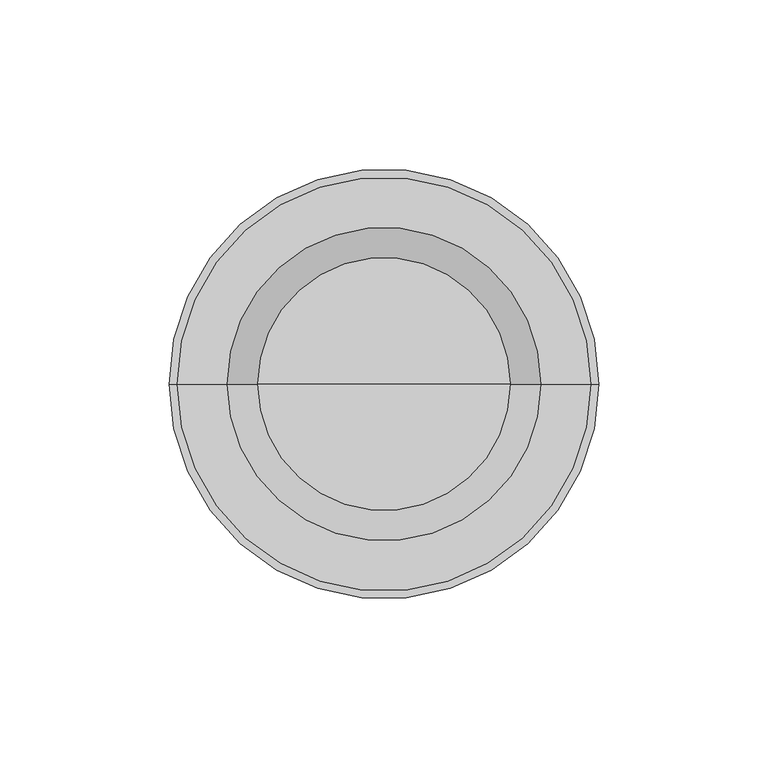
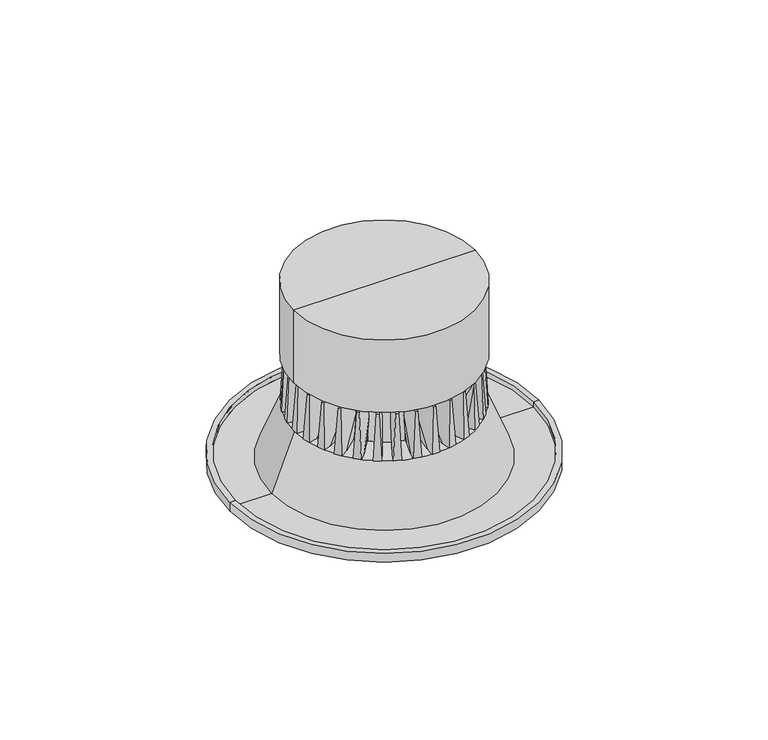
"""IFC4 building model written with IfcOpenShell, lengths in millimetres: light fixture geometry, LREBLD402_ceiling based : LREBLD402W-T30."""

import ifcopenshell
import ifcopenshell.guid

model = None  # the IFC model being written
_history = None  # IfcOwnerHistory: only IFC2X3 demands one
_inside = {}  # id of a spatial element -> (the spatial element, [elements in it])
_under = {}  # id of a project, library or spatial element -> (it, [spatial elements below it])
_declared = {}  # id of a project -> (the project, [libraries it declares])
_typed = {}  # id of a type object -> (the type object, [elements of that type])
_made_of = {}  # id of a material, layer set ... -> (it, [elements and type objects made of it])


def new_model(schema):
    """Start an empty IFC model of exactly this schema.

    Asked for "IFC4X3", IfcOpenShell would pick the latest addendum, in which some entities
    have other attributes; the version numbers below select the first issue.
    IFC2X3 requires an IfcOwnerHistory on every rooted entity: one is made here for all.
    """
    global model, _history
    if schema == "IFC4X3":
        model = ifcopenshell.file(schema_version=(4, 3, 0, 0))
    else:
        model = ifcopenshell.file(schema=schema)
    _inside.clear()
    _under.clear()
    _declared.clear()
    _typed.clear()
    _made_of.clear()
    _history = None
    if model.schema == "IFC2X3":
        org = make("IfcOrganization", Name="unknown")
        user = make(
            "IfcPersonAndOrganization",
            ThePerson=make("IfcPerson", FamilyName="unknown"),
            TheOrganization=org,
        )
        app = make(
            "IfcApplication",
            ApplicationDeveloper=org,
            Version="unknown",
            ApplicationFullName="unknown",
            ApplicationIdentifier="unknown",
        )
        _history = make(
            "IfcOwnerHistory",
            OwningUser=user,
            OwningApplication=app,
            ChangeAction="ADDED",
            CreationDate=0,
        )
    return model


def make(cls, **values):
    """One entity of the class cls with the attributes given. An attribute that is None is left unset."""
    return model.create_entity(
        cls, **{name: value for name, value in values.items() if value is not None}
    )


def rooted(cls, **values):
    """An entity with a GlobalId (a new one), such as an element, a storey or a relation."""
    return make(cls, GlobalId=ifcopenshell.guid.new(), OwnerHistory=_history, **values)


def si_unit(unit_type, name, prefix=None):
    """IfcSIUnit, for example si_unit("LENGTHUNIT", "METRE", prefix="MILLI")."""
    return make("IfcSIUnit", UnitType=unit_type, Prefix=prefix, Name=name)


def assignment(units):
    """IfcUnitAssignment: the units of a project."""
    return None if units is None else make("IfcUnitAssignment", Units=units)


def point(xyz):
    """IfcCartesianPoint."""
    return None if xyz is None else make("IfcCartesianPoint", Coordinates=xyz)


def direction(xyz):
    """IfcDirection."""
    return None if xyz is None else make("IfcDirection", DirectionRatios=xyz)


def frame(location, z_axis=None, x_axis=None):
    """IfcAxis2Placement3D, a coordinate frame: its origin and axes. An axis left out is left unset."""
    return make(
        "IfcAxis2Placement3D",
        Location=point(location),
        Axis=direction(z_axis),
        RefDirection=direction(x_axis),
    )


def origin():
    """The frame at (0, 0, 0) with its axes left unset."""
    return frame((0.0, 0.0, 0.0))


def place(relative_to, where):
    """IfcLocalPlacement: puts the frame where relative to a parent placement (None: the world)."""
    return make(
        "IfcLocalPlacement", PlacementRelTo=relative_to, RelativePlacement=where
    )


def context(
    kind, dimensions, precision=None, world=None, true_north=None, identifier=None
):
    """IfcGeometricRepresentationContext, for example the 3D "Model" context."""
    return make(
        "IfcGeometricRepresentationContext",
        ContextIdentifier=identifier,
        ContextType=kind,
        CoordinateSpaceDimension=dimensions,
        Precision=precision,
        WorldCoordinateSystem=world,
        TrueNorth=true_north,
    )


def project(units=None, contexts=None):
    """IfcProject with its units and contexts."""
    return rooted(
        "IfcProject",
        Name="project",
        RepresentationContexts=contexts,
        UnitsInContext=assignment(units),
    )


def spatial(cls, under=None, at=None, **own):
    """A site, building, storey or space (cls), placed at a placement, below another one or the project."""
    s = rooted(cls, ObjectPlacement=at, **own)
    if under is not None:
        _under.setdefault(under.id(), (under, []))[1].append(s)
    return s


def polyline(points):
    """IfcPolyline through the points."""
    return make("IfcPolyline", Points=[point(p) for p in points])


def circle_curve(where, radius):
    """IfcCircle in the frame where."""
    return make("IfcCircle", Position=where, Radius=radius)


def faces_of(points, faces, orient=None, outer=None):
    """IfcFace entities. A face is a list of loops; a loop is a list of indices into points, from 0.

    orient and outer hold one flag for each loop. By default every Orientation is true, the
    first loop of a face is its IfcFaceOuterBound and the others are IfcFaceBound.
    """
    made = []
    for i, loops in enumerate(faces):
        bounds = []
        for j, loop in enumerate(loops):
            is_outer = j == 0 if outer is None else outer[i][j]
            bounds.append(
                make(
                    "IfcFaceOuterBound" if is_outer else "IfcFaceBound",
                    Bound=make("IfcPolyLoop", Polygon=[points[k] for k in loop]),
                    Orientation=True if orient is None else orient[i][j],
                )
            )
        made.append(make("IfcFace", Bounds=bounds))
    return made


def faceted_brep(points, faces, orient=None, outer=None, voids=None):
    """IfcFacetedBrep: a solid bounded by flat faces; with voids (closed shells), ...WithVoids."""
    shared = [point(p) for p in points]
    hull = make("IfcClosedShell", CfsFaces=faces_of(shared, faces, orient, outer))
    if voids is None:
        return make("IfcFacetedBrep", Outer=hull)
    return make(
        "IfcFacetedBrepWithVoids",
        Outer=hull,
        Voids=[
            make(cls, CfsFaces=faces_of(shared, fs, o, b)) for cls, fs, o, b in voids
        ],
    )


def shape(context_of_items, identifier, shape_type, items):
    """IfcShapeRepresentation: the items that make up one representation, for example the "Body"."""
    return make(
        "IfcShapeRepresentation",
        ContextOfItems=context_of_items,
        RepresentationIdentifier=identifier,
        RepresentationType=shape_type,
        Items=items,
    )


def source(mapping_origin, context_of_items, identifier, shape_type, items):
    """IfcRepresentationMap: a shape defined once, which mapped items show again and again."""
    return make(
        "IfcRepresentationMap",
        MappingOrigin=mapping_origin,
        MappedRepresentation=shape(context_of_items, identifier, shape_type, items),
    )


def transform(
    local_origin,
    x_axis=None,
    y_axis=None,
    z_axis=None,
    scale=None,
    scale2=None,
    scale3=None,
    uniform=True,
):
    """IfcCartesianTransformationOperator3D, or its non-uniform kind. x_axis, y_axis, z_axis: its Axis1, 2, 3."""
    if uniform:
        return make(
            "IfcCartesianTransformationOperator3D",
            Axis1=direction(x_axis),
            Axis2=direction(y_axis),
            LocalOrigin=point(local_origin),
            Scale=scale,
            Axis3=direction(z_axis),
        )
    return make(
        "IfcCartesianTransformationOperator3DnonUniform",
        Axis1=direction(x_axis),
        Axis2=direction(y_axis),
        LocalOrigin=point(local_origin),
        Scale=scale,
        Axis3=direction(z_axis),
        Scale2=scale2,
        Scale3=scale3,
    )


def mapped(mapping_source, mapping_target):
    """IfcMappedItem: shows the shape of a source again, moved by a transform."""
    return make(
        "IfcMappedItem", MappingSource=mapping_source, MappingTarget=mapping_target
    )


def made_of(thing, what):
    """Note that an element or type object is made of a material, layer set ...; save() writes the relation."""
    if what is not None:
        _made_of.setdefault(what.id(), (what, []))[1].append(thing)
    return thing


def element(
    cls,
    number,
    at=None,
    inside=None,
    cuts=None,
    type_object=None,
    material=None,
    context=None,
    identifier="Body",
    shape_type=None,
    held_by="IfcProductDefinitionShape",
    body=None,
    shapes=None,
    **own,
):
    """One element of the class cls, such as IfcWall. Its Tag is "e" and its number.

    at: its placement. inside: the storey or other place that contains it. cuts: it is an
    opening in that element (IfcRelVoidsElement). A single representation is given by context,
    identifier, shape_type and body (its items); several are given by shapes. held_by: the class
    of the entity that holds the representations. save() writes the other relations.
    """
    e = rooted(cls, Tag="e%d" % number, ObjectPlacement=at, **own)
    if body is not None:
        shapes = [shape(context, identifier, shape_type, body)]
    if shapes is not None:
        e.Representation = make(held_by, Representations=shapes)
    if inside is not None:
        _inside.setdefault(inside.id(), (inside, []))[1].append(e)
    if cuts is not None:
        rooted(
            "IfcRelVoidsElement", RelatingBuildingElement=cuts, RelatedOpeningElement=e
        )
    if type_object is not None:
        _typed.setdefault(type_object.id(), (type_object, []))[1].append(e)
    return made_of(e, material)


def aggregate(whole, parts):
    """IfcRelAggregates: a whole, such as a stair, and the parts it consists of."""
    return rooted("IfcRelAggregates", RelatingObject=whole, RelatedObjects=parts)


def save(model, path):
    """Write the relations noted so far, then the file.

    IfcRelAggregates (storeys below a building ...), IfcRelContainedInSpatialStructure (elements
    in a storey), IfcRelDefinesByType, IfcRelAssociatesMaterial and IfcRelDeclares: one each for
    every whole, place, type object, material and project.
    """
    for whole, parts in _under.values():
        aggregate(whole, parts)
    for where, things in _inside.values():
        rooted(
            "IfcRelContainedInSpatialStructure",
            RelatedElements=things,
            RelatingStructure=where,
        )
    for kind, things in _typed.values():
        rooted("IfcRelDefinesByType", RelatedObjects=things, RelatingType=kind)
    for what, things in _made_of.values():
        rooted("IfcRelAssociatesMaterial", RelatedObjects=things, RelatingMaterial=what)
    for by, libraries in _declared.values():
        rooted("IfcRelDeclares", RelatingContext=by, RelatedDefinitions=libraries)
    model.write(path)


def plane_surface(at):
    """IfcPlane: the flat surface through the origin of the frame at, square to its z axis."""
    return make("IfcPlane", Position=at)


def cylinder_surface(at, radius):
    """IfcCylindricalSurface: all points at the distance radius from the z axis of the frame at."""
    return make("IfcCylindricalSurface", Position=at, Radius=radius)


def revolved_surface(curve, axis_point, axis_direction):
    """IfcSurfaceOfRevolution: the curve turned about the line through axis_point along axis_direction."""
    return make(
        "IfcSurfaceOfRevolution",
        SweptCurve=make("IfcArbitraryOpenProfileDef", ProfileType="CURVE", Curve=curve),
        AxisPosition=make("IfcAxis1Placement", Location=point(axis_point), Axis=direction(axis_direction)),
    )


def advanced_brep(points, edges, surfaces, faces):
    """IfcAdvancedBrep: a solid bounded by faces that lie on surfaces and meet in shared edges.

    An edge is (start, end): straight between two places in points (the first is 0);
    or (start, end, curve); or (start, end, curve, False) where it runs against its curve.
    A face is (place in surfaces, loops), or (place, loops, False) where it looks against
    its surface's normal. A loop lists edges by number (the first is 1), with a minus sign
    where the edge is run from its end to its start. The first loop is the outer one.
    """
    corners = [point(p) for p in points]
    vertices = [make("IfcVertexPoint", VertexGeometry=c) for c in corners]
    made = []
    for start, end, *more in edges:
        made.append(
            make(
                "IfcEdgeCurve",
                EdgeStart=vertices[start],
                EdgeEnd=vertices[end],
                EdgeGeometry=more[0] if more else make("IfcPolyline", Points=[corners[start], corners[end]]),
                SameSense=more[1] if len(more) > 1 else True,
            )
        )
    hull = []
    for where, loops, *sense in faces:
        bounds = []
        for j, loop in enumerate(loops):
            ring = [make("IfcOrientedEdge", EdgeElement=made[abs(k) - 1], Orientation=k > 0) for k in loop]
            bounds.append(
                make(
                    "IfcFaceOuterBound" if j == 0 else "IfcFaceBound",
                    Bound=make("IfcEdgeLoop", EdgeList=ring),
                    Orientation=True,
                )
            )
        hull.append(make("IfcAdvancedFace", Bounds=bounds, FaceSurface=surfaces[where], SameSense=sense[0] if sense else True))
    return make("IfcAdvancedBrep", Outer=make("IfcClosedShell", CfsFaces=hull))


def light_fixture_063f11ae(model_context):
    return source(origin(), model_context, "Body", "SolidModel", [
        faceted_brep([(32.8508638, 4.9927163, 21.5533331), (25.8328552, 4.5211107, 21.5533331), (16.1957141, 2.6041641, 21.5533331), (15.9594592, 3.7918975, 21.5533331), (25.5966003, 5.7088441, 21.5533331), (32.2608705, 7.958813, 21.5533331), (35.924714, 8.6875967, 21.5533331), (36.5147073, 5.7215, 21.5533331), (16.2616536, 2.7028496, 41.1607), (35.3164223, 6.4930787, 41.1607), (35.1129134, 7.5161872, 41.1607), (16.0581447, 3.725958, 41.1607)], [[[0, 1, 2, 3, 4, 5, 6, 7]], [[8, 9, 10, 11]], [[1, 0, 8]], [[2, 1, 8]], [[8, 11, 3, 2]], [[4, 3, 11]], [[5, 4, 11]], [[11, 10, 6, 5]], [[10, 9, 7, 6]], [[9, 8, 0, 7]]]),
        faceted_brep([(31.2456131, 11.3056682, 21.5533331), (24.4544592, 9.4739788, 21.5533331), (15.3764707, 5.7137529, 21.5533331), (14.9130401, 6.8325733, 21.5533331), (23.9910286, 10.5927993, 21.5533331), (30.0882995, 14.0996702, 21.5533331), (33.5395646, 15.529231, 21.5533331), (34.6968782, 12.735229, 21.5533331), (15.4218907, 5.8234063, 41.1607), (33.3710903, 13.2582083, 41.1607), (32.9718932, 14.2219553, 41.1607), (15.0226936, 6.7871534, 41.1607)], [[[0, 1, 2, 3, 4, 5, 6, 7]], [[8, 9, 10, 11]], [[1, 0, 8]], [[2, 1, 8]], [[8, 11, 3, 2]], [[4, 3, 11]], [[5, 4, 11]], [[11, 10, 6, 5]], [[10, 9, 7, 6]], [[9, 8, 0, 7]]]),
        faceted_brep([(28.4396109, 17.1841497, 21.5533331), (22.1362921, 14.0627673, 21.5533331), (13.9663183, 8.6037653, 21.5533331), (13.2935213, 9.6106771, 21.5533331), (21.4634951, 15.0696791, 21.5533331), (26.7594521, 19.6986851, 21.5533331), (29.8655086, 21.7740857, 21.5533331), (31.5456674, 19.2595503, 21.5533331), (13.9894732, 8.7201728, 41.1607), (30.1433261, 19.5138323, 41.1607), (29.5637817, 20.3811817, 41.1607), (13.4099288, 9.5875223, 41.1607)], [[[0, 1, 2, 3, 4, 5, 6, 7]], [[8, 9, 10, 11]], [[1, 0, 8]], [[2, 1, 8]], [[8, 11, 3, 2]], [[4, 3, 11]], [[5, 4, 11]], [[11, 10, 6, 5]], [[10, 9, 7, 6]], [[9, 8, 0, 7]]]),
        faceted_brep([(24.5406905, 22.4022539, 21.5533331), (18.9674396, 18.1111315, 21.5533331), (12.019448, 11.1631399, 21.5533331), (11.1631399, 12.019448, 21.5533331), (18.1111315, 18.9674396, 21.5533331), (22.4022539, 24.5406905, 21.5533331), (25.0437379, 27.1821744, 21.5533331), (27.1821744, 25.0437379, 21.5533331), (12.019448, 11.281828, 41.1607), (25.7571707, 25.0195506, 41.1607), (25.0195506, 25.7571707, 41.1607), (11.281828, 12.019448, 41.1607)], [[[0, 1, 2, 3, 4, 5, 6, 7]], [[8, 9, 10, 11]], [[1, 0, 8]], [[2, 1, 8]], [[8, 11, 3, 2]], [[5, 4, 10]], [[10, 9, 7, 6]], [[9, 8, 0, 7]], [[11, 10, 4, 3]], [[6, 5, 10]]]),
        faceted_brep([(19.6986851, 26.7594521, 21.5533331), (15.0696791, 21.4634951, 21.5533331), (9.6106771, 13.2935213, 21.5533331), (8.6037653, 13.9663183, 21.5533331), (14.0627673, 22.1362921, 21.5533331), (17.1841497, 28.4396109, 21.5533331), (19.2595503, 31.5456674, 21.5533331), (21.7740857, 29.8655086, 21.5533331), (9.5875223, 13.4099288, 41.1607), (20.3811817, 29.5637817, 41.1607), (19.5138323, 30.1433261, 41.1607), (8.7201728, 13.9894732, 41.1607)], [[[0, 1, 2, 3, 4, 5, 6, 7]], [[8, 9, 10, 11]], [[1, 0, 8]], [[2, 1, 8]], [[8, 11, 3, 2]], [[4, 3, 11]], [[5, 4, 11]], [[11, 10, 6, 5]], [[10, 9, 7, 6]], [[9, 8, 0, 7]]]),
        faceted_brep([(14.0996702, 30.0882995, 21.5533331), (10.5927993, 23.9910286, 21.5533331), (6.8325733, 14.9130401, 21.5533331), (5.7137529, 15.3764707, 21.5533331), (9.4739788, 24.4544592, 21.5533331), (11.3056682, 31.2456131, 21.5533331), (12.735229, 34.6968782, 21.5533331), (15.529231, 33.5395646, 21.5533331), (6.7871534, 15.0226936, 41.1607), (14.2219553, 32.9718932, 41.1607), (13.2582083, 33.3710903, 41.1607), (5.8234063, 15.4218907, 41.1607)], [[[0, 1, 2, 3, 4, 5, 6, 7]], [[8, 9, 10, 11]], [[1, 0, 8]], [[2, 1, 8]], [[8, 11, 3, 2]], [[4, 3, 11]], [[5, 4, 11]], [[11, 10, 6, 5]], [[10, 9, 7, 6]], [[9, 8, 0, 7]]]),
        faceted_brep([(7.9106893, 32.2727046, 21.5533331), (5.6706622, 25.6050862, 21.5533331), (3.7680909, 15.9650968, 21.5533331), (2.5800064, 16.19958, 21.5533331), (4.4825778, 25.8395694, 21.5533331), (4.943716, 32.8582736, 21.5533331), (5.6670346, 36.5231999, 21.5533331), (8.6340079, 35.937631, 21.5533331), (3.7020043, 16.0636838, 41.1607), (7.4638104, 35.1240842, 41.1607), (6.4403996, 35.326067, 41.1607), (2.6785935, 16.2656666, 41.1607)], [[[0, 1, 2, 3, 4, 5, 6, 7]], [[8, 9, 10, 11]], [[1, 0, 8]], [[2, 1, 8]], [[8, 11, 3, 2]], [[4, 3, 11]], [[5, 4, 11]], [[11, 10, 6, 5]], [[10, 9, 7, 6]], [[9, 8, 0, 7]]]),
        faceted_brep([(1.4680963, 33.1956498, 21.5533331), (0.5707425, 26.2192888, 21.5533331), (0.5837689, 16.3933535, 21.5533331), (-0.6272326, 16.391748, 21.5533331), (-0.640259, 26.2176833, 21.5533331), (-1.556107, 33.1916405, 21.5533331), (-1.5610594, 36.9272597, 21.5533331), (1.4631439, 36.9312689, 21.5533331), (0.4997326, 16.4771673, 41.1607), (0.4739765, 35.9052239, 41.1607), (-0.5691749, 35.903841, 41.1607), (-0.5434188, 16.4757843, 41.1607)], [[[0, 1, 2, 3, 4, 5, 6, 7]], [[8, 9, 10, 11]], [[1, 0, 8]], [[2, 1, 8]], [[8, 11, 3, 2]], [[4, 3, 11]], [[5, 4, 11]], [[11, 10, 6, 5]], [[10, 9, 7, 6]], [[9, 8, 0, 7]]]),
        faceted_brep([(-5.0308199, 32.8450502, 21.5533331), (-4.5510737, 25.8275933, 21.5533331), (-2.6229494, 16.1926823, 21.5533331), (-3.810408, 15.9550498, 21.5533331), (-5.7385323, 25.5899609, 21.5533331), (-7.9962302, 32.2516166, 21.5533331), (-8.7292636, 35.9146122, 21.5533331), (-5.7638533, 36.5080458, 21.5533331), (-2.7217113, 16.2585073, 41.1607), (-6.5340415, 35.3088666, 41.1607), (-7.5569131, 35.104171, 41.1607), (-3.7445829, 16.0538118, 41.1607)], [[[0, 1, 2, 3, 4, 5, 6, 7]], [[8, 9, 10, 11]], [[1, 0, 8]], [[2, 1, 8]], [[8, 11, 3, 2]], [[4, 3, 11]], [[5, 4, 11]], [[11, 10, 6, 5]], [[10, 9, 7, 6]], [[9, 8, 0, 7]]]),
        faceted_brep([(-11.3367297, 31.2343565, 21.5533331), (-9.4982889, 24.4450273, 21.5533331), (-5.7290387, 15.370782, 21.5533331), (-6.8473978, 14.9062392, 21.5533331), (-10.616648, 23.9804845, 21.5533331), (-14.1295796, 30.0742656, 21.5533331), (-15.5625713, 33.5241076, 21.5533331), (-12.7697214, 34.6841986, 21.5533331), (-5.8387372, 15.4160929, 41.1607), (-13.2913821, 33.3578914, 41.1607), (-14.2547318, 32.9577363, 41.1607), (-6.8020869, 15.0159378, 41.1607)], [[[0, 1, 2, 3, 4, 5, 6, 7]], [[8, 9, 10, 11]], [[1, 0, 8]], [[2, 1, 8]], [[8, 11, 3, 2]], [[4, 3, 11]], [[5, 4, 11]], [[11, 10, 6, 5]], [[10, 9, 7, 6]], [[9, 8, 0, 7]]]),
        faceted_brep([(-17.2077081, 28.4253628, 21.5533331), (-14.081104, 22.1246324, 21.5533331), (-8.6153345, 13.9591846, 21.5533331), (-9.6216885, 13.2855536, 21.5533331), (-15.087458, 21.4510014, 21.5533331), (-19.7208504, 26.7431211, 21.5533331), (-21.7988239, 29.847457, 21.5533331), (-19.2856816, 31.5296987, 21.5533331), (-8.7317611, 13.9822431, 41.1607), (-19.5388015, 30.1271471, 41.1607), (-20.4056704, 29.5468843, 41.1607), (-9.5986301, 13.4019803, 41.1607)], [[[0, 1, 2, 3, 4, 5, 6, 7]], [[8, 9, 10, 11]], [[1, 0, 8]], [[2, 1, 8]], [[8, 11, 3, 2]], [[5, 4, 10]], [[10, 9, 7, 6]], [[9, 8, 0, 7]], [[11, 10, 4, 3]], [[6, 5, 10]]]),
        faceted_brep([(-22.418516, 24.5258356, 21.5533331), (-18.1237003, 18.9554303, 21.5533331), (-11.1711047, 12.0120458, 21.5533331), (-12.026845, 11.1551703, 21.5533331), (-18.9794405, 18.0985548, 21.5533331), (-24.5555346, 22.385982, 21.5533331), (-27.1987689, 25.0257145, 21.5533331), (-25.0617503, 27.165568, 21.5533331), (-11.2897927, 12.0119671, 41.1607), (-25.0366185, 25.7405806, 41.1607), (-25.7737494, 25.0024718, 41.1607), (-12.0269236, 11.2738583, 41.1607)], [[[0, 1, 2, 3, 4, 5, 6, 7]], [[8, 9, 10, 11]], [[1, 0, 8]], [[2, 1, 8]], [[8, 11, 3, 2]], [[5, 4, 10]], [[10, 9, 7, 6]], [[9, 8, 0, 7]], [[6, 5, 10]], [[11, 10, 4, 3]]]),
        faceted_brep([(-13.3124576, 9.5844299, 21.5533331), (-13.9832666, 8.5761926, 21.5533331), (-22.1639952, 14.0190644, 21.5533331), (-28.4734604, 17.128004, 21.5533331), (-31.5836057, 19.1972723, 21.5533331), (-29.9084114, 21.7151177, 21.5533331), (-26.7982661, 19.6458495, 21.5533331), (-21.4931863, 15.0273016, 21.5533331), (-13.4288192, 9.5610454, 41.1607), (-29.6039369, 20.3228118, 41.1607), (-30.1817688, 19.4543206, 41.1607), (-14.0066511, 8.6925542, 41.1607)], [[[0, 1, 2, 3, 4, 5, 6, 7]], [[8, 9, 10, 11]], [[7, 6, 9]], [[8, 11, 1, 0]], [[3, 2, 10]], [[10, 9, 5, 4]], [[9, 8, 0, 7]], [[6, 5, 9]], [[4, 3, 10]], [[11, 10, 2, 1]]]),
        faceted_brep([(-30.1068196, 14.0600813, 21.5533331), (-24.0049411, 10.5612334, 21.5533331), (-14.9220145, 6.8129515, 21.5533331), (-15.383973, 5.6935224, 21.5533331), (-24.4668997, 9.4418044, 21.5533331), (-31.260457, 11.2645594, 21.5533331), (-34.7135995, 12.6895793, 21.5533331), (-33.5599621, 15.4851012, 21.5533331), (-15.0316081, 6.7673873, 41.1607), (-32.9905716, 14.1785733, 41.1607), (-33.3885007, 13.214302, 41.1607), (-15.4295372, 5.803116, 41.1607)], [[[0, 1, 2, 3, 4, 5, 6, 7]], [[8, 9, 10, 11]], [[1, 0, 8]], [[2, 1, 8]], [[8, 11, 3, 2]], [[4, 3, 11]], [[5, 4, 11]], [[11, 10, 6, 5]], [[10, 9, 7, 6]], [[9, 8, 0, 7]]]),
        faceted_brep([(-32.2546436, 7.9840111, 21.5533331), (-25.5921331, 5.7288371, 21.5533331), (-15.9564923, 3.8043631, 21.5533331), (-16.1936749, 2.6168146, 21.5533331), (-25.8293157, 4.5412886, 21.5533331), (-32.8469537, 5.0183762, 21.5533331), (-36.5102268, 5.7500217, 21.5533331), (-35.9179167, 8.7156566, 21.5533331), (-16.0552293, 3.7385007, 41.1607), (-35.1070314, 7.5436133, 41.1607), (-35.3113395, 6.5206642, 41.1607), (-16.2595373, 2.7155515, 41.1607)], [[[0, 1, 2, 3, 4, 5, 6, 7]], [[8, 9, 10, 11]], [[1, 0, 8]], [[2, 1, 8]], [[8, 11, 3, 2]], [[4, 3, 11]], [[5, 4, 11]], [[11, 10, 6, 5]], [[10, 9, 7, 6]], [[9, 8, 0, 7]]]),
        faceted_brep([(16.3925652, 0.6055013, 21.5533331), (26.2185091, 0.6055013, 21.5533331), (33.1936743, 1.512103, 21.5533331), (36.9292967, 1.512103, 21.5533331), (36.9292967, -1.512103, 21.5533331), (33.1936743, -1.512103, 21.5533331), (26.2185091, -0.6055013, 21.5533331), (16.3925652, -0.6055013, 21.5533331), (16.4764903, 0.5215761, 41.1607), (16.4764903, -0.5215761, 41.1607), (35.904564, -0.5215761, 41.1607), (35.904564, 0.5215761, 41.1607)], [[[0, 1, 2, 3, 4, 5, 6, 7]], [[8, 9, 10, 11]], [[2, 1, 8]], [[1, 0, 8]], [[9, 8, 0, 7]], [[7, 6, 9]], [[6, 5, 9]], [[10, 9, 5, 4]], [[11, 10, 4, 3]], [[8, 11, 3, 2]]]),
        faceted_brep([(16.1957141, -2.6041641, 21.5533331), (25.8328552, -4.5211107, 21.5533331), (32.8508638, -4.9927163, 21.5533331), (36.5147073, -5.7215, 21.5533331), (35.924714, -8.6875967, 21.5533331), (32.2608705, -7.958813, 21.5533331), (25.5966003, -5.7088441, 21.5533331), (15.9594592, -3.7918975, 21.5533331), (16.2616536, -2.7028496, 41.1607), (16.0581447, -3.725958, 41.1607), (35.1129134, -7.5161872, 41.1607), (35.3164223, -6.4930787, 41.1607)], [[[0, 1, 2, 3, 4, 5, 6, 7]], [[8, 9, 10, 11]], [[2, 1, 8]], [[1, 0, 8]], [[9, 8, 0, 7]], [[7, 6, 9]], [[6, 5, 9]], [[10, 9, 5, 4]], [[11, 10, 4, 3]], [[8, 11, 3, 2]]]),
        faceted_brep([(15.3764707, -5.7137529, 21.5533331), (24.4544592, -9.4739788, 21.5533331), (31.2456131, -11.3056682, 21.5533331), (34.6968782, -12.735229, 21.5533331), (33.5395646, -15.529231, 21.5533331), (30.0882995, -14.0996702, 21.5533331), (23.9910286, -10.5927993, 21.5533331), (14.9130401, -6.8325733, 21.5533331), (15.4218907, -5.8234063, 41.1607), (15.0226936, -6.7871534, 41.1607), (32.9718932, -14.2219553, 41.1607), (33.3710903, -13.2582083, 41.1607)], [[[0, 1, 2, 3, 4, 5, 6, 7]], [[8, 9, 10, 11]], [[2, 1, 8]], [[1, 0, 8]], [[9, 8, 0, 7]], [[7, 6, 9]], [[6, 5, 9]], [[10, 9, 5, 4]], [[11, 10, 4, 3]], [[8, 11, 3, 2]]]),
        faceted_brep([(13.9663183, -8.6037653, 21.5533331), (22.1362921, -14.0627673, 21.5533331), (28.4396109, -17.1841497, 21.5533331), (31.5456674, -19.2595503, 21.5533331), (29.8655086, -21.7740857, 21.5533331), (26.7594521, -19.6986851, 21.5533331), (21.4634951, -15.0696791, 21.5533331), (13.2935213, -9.6106771, 21.5533331), (13.9894732, -8.7201728, 41.1607), (13.4099288, -9.5875223, 41.1607), (29.5637817, -20.3811817, 41.1607), (30.1433261, -19.5138323, 41.1607)], [[[0, 1, 2, 3, 4, 5, 6, 7]], [[8, 9, 10, 11]], [[2, 1, 8]], [[1, 0, 8]], [[9, 8, 0, 7]], [[7, 6, 9]], [[6, 5, 9]], [[10, 9, 5, 4]], [[11, 10, 4, 3]], [[8, 11, 3, 2]]]),
        faceted_brep([(12.019448, -11.1631399, 21.5533331), (18.9674396, -18.1111315, 21.5533331), (24.5406905, -22.4022539, 21.5533331), (27.1821744, -25.0437379, 21.5533331), (25.0437379, -27.1821744, 21.5533331), (22.4022539, -24.5406905, 21.5533331), (18.1111315, -18.9674396, 21.5533331), (11.1631399, -12.019448, 21.5533331), (12.019448, -11.281828, 41.1607), (11.281828, -12.019448, 41.1607), (25.0195506, -25.7571707, 41.1607), (25.7571707, -25.0195506, 41.1607)], [[[0, 1, 2, 3, 4, 5, 6, 7]], [[8, 9, 10, 11]], [[2, 1, 8]], [[1, 0, 8]], [[9, 8, 0, 7]], [[7, 6, 9]], [[6, 5, 9]], [[10, 9, 5, 4]], [[11, 10, 4, 3]], [[8, 11, 3, 2]]]),
        faceted_brep([(9.6106771, -13.2935213, 21.5533331), (15.0696791, -21.4634951, 21.5533331), (19.6986851, -26.7594521, 21.5533331), (21.7740857, -29.8655086, 21.5533331), (19.2595503, -31.5456674, 21.5533331), (17.1841497, -28.4396109, 21.5533331), (14.0627673, -22.1362921, 21.5533331), (8.6037653, -13.9663183, 21.5533331), (9.5875223, -13.4099288, 41.1607), (8.7201728, -13.9894732, 41.1607), (19.5138323, -30.1433261, 41.1607), (20.3811817, -29.5637817, 41.1607)], [[[0, 1, 2, 3, 4, 5, 6, 7]], [[8, 9, 10, 11]], [[2, 1, 11]], [[9, 8, 0, 7]], [[6, 5, 10]], [[11, 10, 4, 3]], [[8, 11, 1, 0]], [[3, 2, 11]], [[5, 4, 10]], [[10, 9, 7, 6]]]),
        faceted_brep([(6.8325733, -14.9130401, 21.5533331), (10.5927993, -23.9910286, 21.5533331), (14.0996702, -30.0882995, 21.5533331), (15.529231, -33.5395646, 21.5533331), (12.735229, -34.6968782, 21.5533331), (11.3056682, -31.2456131, 21.5533331), (9.4739788, -24.4544592, 21.5533331), (5.7137529, -15.3764707, 21.5533331), (6.7871534, -15.0226936, 41.1607), (5.8234063, -15.4218907, 41.1607), (13.2582083, -33.3710903, 41.1607), (14.2219553, -32.9718932, 41.1607)], [[[0, 1, 2, 3, 4, 5, 6, 7]], [[8, 9, 10, 11]], [[2, 1, 8]], [[1, 0, 8]], [[9, 8, 0, 7]], [[7, 6, 9]], [[6, 5, 9]], [[10, 9, 5, 4]], [[11, 10, 4, 3]], [[8, 11, 3, 2]]]),
        faceted_brep([(3.7680909, -15.9650968, 21.5533331), (5.6706622, -25.6050862, 21.5533331), (7.9106893, -32.2727046, 21.5533331), (8.6340079, -35.937631, 21.5533331), (5.6670346, -36.5231999, 21.5533331), (4.943716, -32.8582736, 21.5533331), (4.4825778, -25.8395694, 21.5533331), (2.5800064, -16.19958, 21.5533331), (3.7020043, -16.0636838, 41.1607), (2.6785935, -16.2656666, 41.1607), (6.4403996, -35.326067, 41.1607), (7.4638104, -35.1240842, 41.1607)], [[[0, 1, 2, 3, 4, 5, 6, 7]], [[8, 9, 10, 11]], [[2, 1, 8]], [[1, 0, 8]], [[9, 8, 0, 7]], [[7, 6, 9]], [[6, 5, 9]], [[10, 9, 5, 4]], [[11, 10, 4, 3]], [[8, 11, 3, 2]]]),
        faceted_brep([(0.5837689, -16.3933535, 21.5533331), (0.5707425, -26.2192888, 21.5533331), (1.4680963, -33.1956498, 21.5533331), (1.4631439, -36.9312689, 21.5533331), (-1.5610594, -36.9272597, 21.5533331), (-1.556107, -33.1916405, 21.5533331), (-0.640259, -26.2176833, 21.5533331), (-0.6272326, -16.391748, 21.5533331), (0.4997326, -16.4771673, 41.1607), (-0.5434188, -16.4757843, 41.1607), (-0.5691749, -35.903841, 41.1607), (0.4739765, -35.9052239, 41.1607)], [[[0, 1, 2, 3, 4, 5, 6, 7]], [[8, 9, 10, 11]], [[2, 1, 8]], [[1, 0, 8]], [[9, 8, 0, 7]], [[7, 6, 9]], [[6, 5, 9]], [[10, 9, 5, 4]], [[11, 10, 4, 3]], [[8, 11, 3, 2]]]),
        faceted_brep([(-2.6229494, -16.1926823, 21.5533331), (-4.5510737, -25.8275933, 21.5533331), (-5.0308199, -32.8450502, 21.5533331), (-5.7638533, -36.5080458, 21.5533331), (-8.7292636, -35.9146122, 21.5533331), (-7.9962302, -32.2516166, 21.5533331), (-5.7385323, -25.5899609, 21.5533331), (-3.810408, -15.9550498, 21.5533331), (-2.7217113, -16.2585073, 41.1607), (-3.7445829, -16.0538118, 41.1607), (-7.5569131, -35.104171, 41.1607), (-6.5340415, -35.3088666, 41.1607)], [[[0, 1, 2, 3, 4, 5, 6, 7]], [[8, 9, 10, 11]], [[2, 1, 8]], [[1, 0, 8]], [[9, 8, 0, 7]], [[7, 6, 9]], [[6, 5, 9]], [[10, 9, 5, 4]], [[11, 10, 4, 3]], [[8, 11, 3, 2]]]),
        faceted_brep([(-5.7290387, -15.370782, 21.5533331), (-9.4982889, -24.4450273, 21.5533331), (-11.3367297, -31.2343565, 21.5533331), (-12.7697214, -34.6841986, 21.5533331), (-15.5625713, -33.5241076, 21.5533331), (-14.1295796, -30.0742656, 21.5533331), (-10.616648, -23.9804845, 21.5533331), (-6.8473978, -14.9062392, 21.5533331), (-5.8387372, -15.4160929, 41.1607), (-6.8020869, -15.0159378, 41.1607), (-14.2547318, -32.9577363, 41.1607), (-13.2913821, -33.3578914, 41.1607)], [[[0, 1, 2, 3, 4, 5, 6, 7]], [[8, 9, 10, 11]], [[2, 1, 8]], [[1, 0, 8]], [[9, 8, 0, 7]], [[7, 6, 9]], [[6, 5, 9]], [[10, 9, 5, 4]], [[11, 10, 4, 3]], [[8, 11, 3, 2]]]),
        faceted_brep([(-8.6153345, -13.9591846, 21.5533331), (-14.081104, -22.1246324, 21.5533331), (-17.2077081, -28.4253628, 21.5533331), (-19.2856816, -31.5296987, 21.5533331), (-21.7988239, -29.847457, 21.5533331), (-19.7208504, -26.7431211, 21.5533331), (-15.087458, -21.4510014, 21.5533331), (-9.6216885, -13.2855536, 21.5533331), (-8.7317611, -13.9822431, 41.1607), (-9.5986301, -13.4019803, 41.1607), (-20.4056704, -29.5468843, 41.1607), (-19.5388015, -30.1271471, 41.1607)], [[[0, 1, 2, 3, 4, 5, 6, 7]], [[8, 9, 10, 11]], [[2, 1, 8]], [[1, 0, 8]], [[9, 8, 0, 7]], [[7, 6, 9]], [[6, 5, 9]], [[10, 9, 5, 4]], [[11, 10, 4, 3]], [[8, 11, 3, 2]]]),
        faceted_brep([(-11.1711047, -12.0120458, 21.5533331), (-18.1237003, -18.9554303, 21.5533331), (-22.418516, -24.5258356, 21.5533331), (-25.0617503, -27.165568, 21.5533331), (-27.1987689, -25.0257145, 21.5533331), (-24.5555346, -22.385982, 21.5533331), (-18.9794405, -18.0985548, 21.5533331), (-12.026845, -11.1551703, 21.5533331), (-11.2897927, -12.0119671, 41.1607), (-12.0269236, -11.2738583, 41.1607), (-25.7737494, -25.0024718, 41.1607), (-25.0366185, -25.7405806, 41.1607)], [[[0, 1, 2, 3, 4, 5, 6, 7]], [[8, 9, 10, 11]], [[2, 1, 8]], [[1, 0, 8]], [[9, 8, 0, 7]], [[7, 6, 9]], [[6, 5, 9]], [[10, 9, 5, 4]], [[11, 10, 4, 3]], [[8, 11, 3, 2]]]),
        faceted_brep([(-13.3124576, -9.5844299, 21.5533331), (-21.4931863, -15.0273016, 21.5533331), (-26.7982661, -19.6458495, 21.5533331), (-29.9084114, -21.7151177, 21.5533331), (-31.5836057, -19.1972723, 21.5533331), (-28.4734604, -17.128004, 21.5533331), (-22.1639952, -14.0190644, 21.5533331), (-13.9832666, -8.5761926, 21.5533331), (-13.4288192, -9.5610454, 41.1607), (-14.0066511, -8.6925542, 41.1607), (-30.1817688, -19.4543206, 41.1607), (-29.6039369, -20.3228118, 41.1607)], [[[0, 1, 2, 3, 4, 5, 6, 7]], [[8, 9, 10, 11]], [[2, 1, 8]], [[1, 0, 8]], [[9, 8, 0, 7]], [[6, 5, 10]], [[11, 10, 4, 3]], [[8, 11, 3, 2]], [[5, 4, 10]], [[10, 9, 7, 6]]]),
        faceted_brep([(-14.9220145, -6.8129515, 21.5533331), (-24.0049411, -10.5612334, 21.5533331), (-30.1068196, -14.0600813, 21.5533331), (-33.5599621, -15.4851012, 21.5533331), (-34.7135995, -12.6895793, 21.5533331), (-31.260457, -11.2645594, 21.5533331), (-24.4668997, -9.4418044, 21.5533331), (-15.383973, -5.6935224, 21.5533331), (-15.0316081, -6.7673873, 41.1607), (-15.4295372, -5.803116, 41.1607), (-33.3885007, -13.214302, 41.1607), (-32.9905716, -14.1785733, 41.1607)], [[[0, 1, 2, 3, 4, 5, 6, 7]], [[8, 9, 10, 11]], [[2, 1, 8]], [[1, 0, 8]], [[9, 8, 0, 7]], [[7, 6, 9]], [[6, 5, 9]], [[10, 9, 5, 4]], [[11, 10, 4, 3]], [[8, 11, 3, 2]]]),
        faceted_brep([(-15.9564923, -3.8043631, 21.5533331), (-25.5921331, -5.7288371, 21.5533331), (-32.2546436, -7.9840111, 21.5533331), (-35.9179167, -8.7156566, 21.5533331), (-36.5102268, -5.7500217, 21.5533331), (-32.8469537, -5.0183762, 21.5533331), (-25.8293157, -4.5412886, 21.5533331), (-16.1936749, -2.6168146, 21.5533331), (-16.0552293, -3.7385007, 41.1607), (-16.2595373, -2.7155515, 41.1607), (-35.3113395, -6.5206642, 41.1607), (-35.1070314, -7.5436133, 41.1607)], [[[0, 1, 2, 3, 4, 5, 6, 7]], [[8, 9, 10, 11]], [[2, 1, 8]], [[1, 0, 8]], [[9, 8, 0, 7]], [[7, 6, 9]], [[6, 5, 9]], [[10, 9, 5, 4]], [[11, 10, 4, 3]], [[8, 11, 3, 2]]]),
        faceted_brep([(-16.3925652, -0.6055013, 21.5533331), (-26.2185091, -0.6055013, 21.5533331), (-33.1936743, -1.512103, 21.5533331), (-36.9292967, -1.512103, 21.5533331), (-36.9292967, 1.512103, 21.5533331), (-33.1936743, 1.512103, 21.5533331), (-26.2185091, 0.6055013, 21.5533331), (-16.3925652, 0.6055013, 21.5533331), (-16.4764903, -0.5215761, 41.1607), (-16.4764903, 0.5215761, 41.1607), (-35.904564, 0.5215761, 41.1607), (-35.904564, -0.5215761, 41.1607)], [[[0, 1, 2, 3, 4, 5, 6, 7]], [[8, 9, 10, 11]], [[2, 1, 8]], [[1, 0, 8]], [[9, 8, 0, 7]], [[7, 6, 9]], [[6, 5, 9]], [[10, 9, 5, 4]], [[11, 10, 4, 3]], [[8, 11, 3, 2]]]),
        advanced_brep(
        [(25.1934922, 0.0, 21.5533331), (-25.1934922, 0.0, 21.5533331), (-25.1934922, 0.0, 42.8879), (25.1934922, 0.0, 42.8879), (0.0, 0.0, 21.5533331), (0.0, 0.0, 42.8879)],
        [
            (0, 1, circle_curve(frame((0.0, 0.0, 21.5533331), z_axis=(0.0, 0.0, 1.0), x_axis=(-1.0, 0.0, 0.0)), 25.1934922)),
            (1, 2),
            (2, 3, circle_curve(frame((0.0, 0.0, 42.8879), z_axis=(0.0, 0.0, -1.0), x_axis=(-1.0, 0.0, 0.0)), 25.1934922)),
            (3, 0),
            (1, 0, circle_curve(frame((0.0, 0.0, 21.5533331), z_axis=(0.0, 0.0, 1.0), x_axis=(-1.0, 0.0, 0.0)), 25.1934922)),
            (3, 2, circle_curve(frame((0.0, 0.0, 42.8879), z_axis=(0.0, 0.0, -1.0), x_axis=(-1.0, 0.0, 0.0)), 25.1934922)),
            (4, 1),
            (0, 4),
            (2, 5),
            (5, 3),
        ],
        [
            cylinder_surface(frame((0.0, 0.0, 80.6831), z_axis=(0.0, 0.0, -1.0), x_axis=(-1.0, 0.0, 0.0)), 25.1934922),
            plane_surface(frame((0.0, 0.0, 21.5533331), z_axis=(0.0, 0.0, -1.0), x_axis=(-1.0, 0.0, 0.0))),
            plane_surface(frame((0.0, 0.0, 42.8879), z_axis=(0.0, 0.0, 1.0), x_axis=(-1.0, 0.0, 0.0))),
        ],
        [
            (0, [[1, 2, 3, 4]]),
            (0, [[5, -4, 6, -2]]),
            (1, [[7, -1, 8]]),
            (1, [[-8, -5, -7]]),
            (2, [[-3, 9, 10]]),
            (2, [[-6, -10, -9]]),
        ],
    ),
        advanced_brep(
        [(0.0, 0.0, -2.2528278), (-44.4717185, 0.0, -2.2528278), (44.4717185, 0.0, -2.2528278), (43.5814985, 0.0, 0.0), (-43.5814985, 0.0, 0.0), (0.0, 0.0, 0.0)],
        [
            (0, 1),
            (1, 2, circle_curve(frame((0.0, 0.0, -2.2528278), z_axis=(0.0, 0.0, -1.0), x_axis=(-1.0, 0.0, 0.0)), 44.4717185)),
            (2, 0),
            (2, 1, circle_curve(frame((0.0, 0.0, -2.2528278), z_axis=(0.0, 0.0, -1.0), x_axis=(-1.0, 0.0, 0.0)), 44.4717185)),
            (3, 4, circle_curve(frame((0.0, 0.0, 0.0), z_axis=(0.0, 0.0, 1.0), x_axis=(-1.0, 0.0, 0.0)), 43.5814985)),
            (4, 5),
            (5, 3),
            (4, 3, circle_curve(frame((0.0, 0.0, 0.0), z_axis=(0.0, 0.0, 1.0), x_axis=(-1.0, 0.0, 0.0)), 43.5814985)),
            (1, 4),
            (3, 2),
        ],
        [
            plane_surface(frame((0.0, 0.0, -2.2528278), z_axis=(0.0, 0.0, -1.0), x_axis=(-1.0, 0.0, 0.0))),
            plane_surface(frame((0.0, 0.0, 0.0), z_axis=(0.0, 0.0, 1.0), x_axis=(-1.0, 0.0, 0.0))),
            revolved_surface(polyline([(-43.5814985, 0.0, 0.0), (-44.4717185, 0.0, -2.2528278)]), (0.0, 0.0, 4.5082186), (0.0, 0.0, -1.0)),
        ],
        [
            (0, [[1, 2, 3]]),
            (0, [[-3, 4, -1]]),
            (1, [[5, 6, 7]]),
            (1, [[8, -7, -6]]),
            (2, [[-2, 9, -5, 10]]),
            (2, [[-4, -10, -8, -9]]),
        ],
    ),
        advanced_brep(
        [(37.30625, 0.0, 42.8879), (-37.30625, 0.0, 42.8879), (-37.30625, 0.0, 74.3331), (37.30625, 0.0, 74.3331), (0.0, 0.0, 42.8879), (0.0, 0.0, 74.3331)],
        [
            (0, 1, circle_curve(frame((0.0, 0.0, 42.8879), z_axis=(0.0, 0.0, 1.0), x_axis=(-1.0, 0.0, 0.0)), 37.30625)),
            (1, 2),
            (2, 3, circle_curve(frame((0.0, 0.0, 74.3331), z_axis=(0.0, 0.0, -1.0), x_axis=(-1.0, 0.0, 0.0)), 37.30625)),
            (3, 0),
            (1, 0, circle_curve(frame((0.0, 0.0, 42.8879), z_axis=(0.0, 0.0, 1.0), x_axis=(-1.0, 0.0, 0.0)), 37.30625)),
            (3, 2, circle_curve(frame((0.0, 0.0, 74.3331), z_axis=(0.0, 0.0, -1.0), x_axis=(-1.0, 0.0, 0.0)), 37.30625)),
            (4, 1),
            (0, 4),
            (2, 5),
            (5, 3),
        ],
        [
            cylinder_surface(frame((0.0, 0.0, 99.7331), z_axis=(0.0, 0.0, -1.0), x_axis=(-1.0, 0.0, 0.0)), 37.30625),
            plane_surface(frame((0.0, 0.0, 42.8879), z_axis=(0.0, 0.0, -1.0), x_axis=(-1.0, 0.0, 0.0))),
            plane_surface(frame((0.0, 0.0, 74.3331), z_axis=(0.0, 0.0, 1.0), x_axis=(-1.0, 0.0, 0.0))),
        ],
        [
            (0, [[1, 2, 3, 4]]),
            (0, [[5, -4, 6, -2]]),
            (1, [[7, -1, 8]]),
            (1, [[-8, -5, -7]]),
            (2, [[-3, 9, 10]]),
            (2, [[-6, -10, -9]]),
        ],
    ),
        advanced_brep(
        [(45.1020831, 0.0, -3.8481), (-45.1020831, 0.0, -3.8481), (-63.5, 0.0, -3.8481), (63.5, 0.0, -3.8481), (35.7667634, 0.0, 19.7739), (-35.7667634, 0.0, 19.7739), (0.0, 0.0, 19.7739), (36.9292967, 0.0, 21.5533331), (-36.9292967, 0.0, 21.5533331), (0.0, 0.0, 21.5533331), (46.3003157, 0.0, -2.159), (-46.3003157, 0.0, -2.159), (61.2354615, 0.0, -2.159), (-61.2354615, 0.0, -2.159), (61.2354615, 0.0, 0.0), (-61.2354615, 0.0, 0.0), (63.5, 0.0, 0.0), (-63.5, 0.0, 0.0)],
        [
            (0, 1, circle_curve(frame((0.0, 0.0, -3.8481), z_axis=(0.0, 0.0, 1.0), x_axis=(-1.0, 0.0, 0.0)), 45.1020831)),
            (1, 2),
            (2, 3, circle_curve(frame((0.0, 0.0, -3.8481), z_axis=(0.0, 0.0, -1.0), x_axis=(-1.0, 0.0, 0.0)), 63.5)),
            (3, 0),
            (1, 0, circle_curve(frame((0.0, 0.0, -3.8481), z_axis=(0.0, 0.0, 1.0), x_axis=(-1.0, 0.0, 0.0)), 45.1020831)),
            (3, 2, circle_curve(frame((0.0, 0.0, -3.8481), z_axis=(0.0, 0.0, -1.0), x_axis=(-1.0, 0.0, 0.0)), 63.5)),
            (4, 5, circle_curve(frame((0.0, 0.0, 19.7739), z_axis=(0.0, 0.0, 1.0), x_axis=(-1.0, 0.0, 0.0)), 35.7667634)),
            (5, 1),
            (0, 4),
            (5, 4, circle_curve(frame((0.0, 0.0, 19.7739), z_axis=(0.0, 0.0, 1.0), x_axis=(-1.0, 0.0, 0.0)), 35.7667634)),
            (6, 5),
            (4, 6),
            (7, 8, circle_curve(frame((0.0, 0.0, 21.5533331), z_axis=(0.0, 0.0, 1.0), x_axis=(-1.0, 0.0, 0.0)), 36.9292967)),
            (8, 9),
            (9, 7),
            (8, 7, circle_curve(frame((0.0, 0.0, 21.5533331), z_axis=(0.0, 0.0, 1.0), x_axis=(-1.0, 0.0, 0.0)), 36.9292967)),
            (10, 11, circle_curve(frame((0.0, 0.0, -2.159), z_axis=(0.0, 0.0, 1.0), x_axis=(-1.0, 0.0, 0.0)), 46.3003157)),
            (11, 8),
            (7, 10),
            (11, 10, circle_curve(frame((0.0, 0.0, -2.159), z_axis=(0.0, 0.0, 1.0), x_axis=(-1.0, 0.0, 0.0)), 46.3003157)),
            (12, 13, circle_curve(frame((0.0, 0.0, -2.159), z_axis=(0.0, 0.0, 1.0), x_axis=(-1.0, 0.0, 0.0)), 61.2354615)),
            (13, 11),
            (10, 12),
            (13, 12, circle_curve(frame((0.0, 0.0, -2.159), z_axis=(0.0, 0.0, 1.0), x_axis=(-1.0, 0.0, 0.0)), 61.2354615)),
            (14, 15, circle_curve(frame((0.0, 0.0, 0.0), z_axis=(0.0, 0.0, 1.0), x_axis=(-1.0, 0.0, 0.0)), 61.2354615)),
            (15, 13),
            (12, 14),
            (15, 14, circle_curve(frame((0.0, 0.0, 0.0), z_axis=(0.0, 0.0, 1.0), x_axis=(-1.0, 0.0, 0.0)), 61.2354615)),
            (16, 17, circle_curve(frame((0.0, 0.0, 0.0), z_axis=(0.0, 0.0, 1.0), x_axis=(-1.0, 0.0, 0.0)), 63.5)),
            (17, 15),
            (14, 16),
            (17, 16, circle_curve(frame((0.0, 0.0, 0.0), z_axis=(0.0, 0.0, 1.0), x_axis=(-1.0, 0.0, 0.0)), 63.5)),
            (2, 17),
            (16, 3),
        ],
        [
            plane_surface(frame((0.0, 0.0, -3.8481), z_axis=(0.0, 0.0, -1.0), x_axis=(-1.0, 0.0, 0.0))),
            revolved_surface(polyline([(-45.1020831, 0.0, -3.8481), (-35.7667634, 0.0, 19.7739)]), (0.0, 0.0, 91.4033331), (0.0, 0.0, -1.0)),
            plane_surface(frame((0.0, 0.0, 19.7739), z_axis=(0.0, 0.0, -1.0), x_axis=(-1.0, 0.0, 0.0))),
            plane_surface(frame((0.0, 0.0, 21.5533331), z_axis=(0.0, 0.0, 1.0), x_axis=(-1.0, 0.0, 0.0))),
            revolved_surface(polyline([(-36.9292967, 0.0, 21.5533331), (-46.3003157, 0.0, -2.159)]), (0.0, 0.0, 91.4033331), (0.0, 0.0, -1.0)),
            plane_surface(frame((0.0, 0.0, -2.159), z_axis=(0.0, 0.0, 1.0), x_axis=(-1.0, 0.0, 0.0))),
            revolved_surface(polyline([(-61.2354615, 0.0, -2.159000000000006), (-61.2354615, 0.0, 0.0)]), (0.0, 0.0, 91.4033331), (0.0, 0.0, -1.0)),
            plane_surface(frame((0.0, 0.0, 0.0), z_axis=(0.0, 0.0, 1.0), x_axis=(-1.0, 0.0, 0.0))),
            cylinder_surface(frame((0.0, 0.0, 91.4033331), z_axis=(0.0, 0.0, -1.0), x_axis=(-1.0, 0.0, 0.0)), 63.5),
        ],
        [
            (0, [[1, 2, 3, 4]]),
            (0, [[5, -4, 6, -2]]),
            (1, [[7, 8, -1, 9]]),
            (1, [[10, -9, -5, -8]]),
            (2, [[11, -7, 12]]),
            (2, [[-12, -10, -11]]),
            (3, [[13, 14, 15]]),
            (3, [[16, -15, -14]]),
            (4, [[17, 18, -13, 19]]),
            (4, [[20, -19, -16, -18]]),
            (5, [[21, 22, -17, 23]]),
            (5, [[24, -23, -20, -22]]),
            (6, [[25, 26, -21, 27]]),
            (6, [[28, -27, -24, -26]]),
            (7, [[29, 30, -25, 31]]),
            (7, [[32, -31, -28, -30]]),
            (8, [[-3, 33, -29, 34]]),
            (8, [[-6, -34, -32, -33]]),
        ],
    ),
    ])


if __name__ == "__main__":
    model = new_model("IFC4")
    model_context = context("Model", 3, world=origin())
    ifc_project = project(units=[si_unit("LENGTHUNIT", "METRE", prefix="MILLI")], contexts=[model_context])
    site = spatial("IfcSite", under=ifc_project)
    building = spatial("IfcBuilding", under=site)
    placement = place(None, origin())
    light_fixture_shape = light_fixture_063f11ae(model_context)
    element("IfcLightFixture", 1, ObjectType="LREBLD402_ceiling based : LREBLD402W-T30", at=placement, inside=building, context=model_context, shape_type="MappedRepresentation", body=[
        mapped(light_fixture_shape, transform((0.0, 0.0, 0.0), x_axis=(1.0, 0.0, 0.0), y_axis=(0.0, 1.0, 0.0), z_axis=(0.0, 0.0, 1.0))),
    ])
    save(model, "model.ifc")
